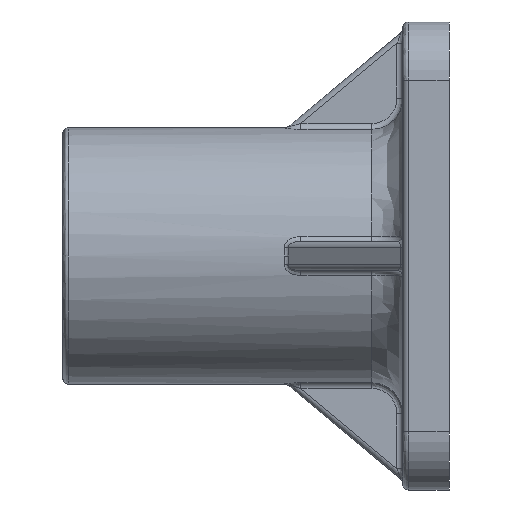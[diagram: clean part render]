
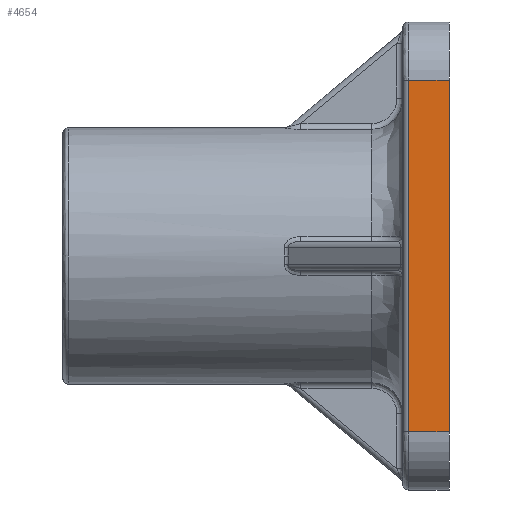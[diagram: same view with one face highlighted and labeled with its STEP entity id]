
A CAD part, left-side view. The second image highlights one B-rep face of the part: STEP entity #4654.
In plain terms, the highlighted planar face has unit normal (-1, 0, 0).
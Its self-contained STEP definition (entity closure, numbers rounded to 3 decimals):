
#58 = LINE ( 'NONE', #13408, #11465 ) ;
#60 = DIRECTION ( 'NONE',  ( 1., 0., 0. ) ) ;
#449 = DIRECTION ( 'NONE',  ( 0., 0., 1. ) ) ;
#1901 = EDGE_CURVE ( 'NONE', #9525, #6583, #12259, .T. ) ;
#2325 = VECTOR ( 'NONE', #4764, 1000. ) ;
#2365 = LINE ( 'NONE', #16846, #15731 ) ;
#2638 = ORIENTED_EDGE ( 'NONE', *, *, #16523, .F. ) ;
#3129 = CARTESIAN_POINT ( 'NONE',  ( -60.5, 0., -45.5 ) ) ;
#4088 = CARTESIAN_POINT ( 'NONE',  ( -60.5, 12., 60.5 ) ) ;
#4654 = ADVANCED_FACE ( 'NONE', ( #9446 ), #8063, .F. ) ;
#4764 = DIRECTION ( 'NONE',  ( 0., -1., 0. ) ) ;
#5279 = DIRECTION ( 'NONE',  ( 0., 1., 0. ) ) ;
#6374 = CARTESIAN_POINT ( 'NONE',  ( -60.5, 0., 45.5 ) ) ;
#6444 = VECTOR ( 'NONE', #449, 1000. ) ;
#6583 = VERTEX_POINT ( 'NONE', #6374 ) ;
#6840 = DIRECTION ( 'NONE',  ( 0., 0., 1. ) ) ;
#7289 = VERTEX_POINT ( 'NONE', #12463 ) ;
#7349 = EDGE_CURVE ( 'NONE', #9525, #7289, #2365, .T. ) ;
#7352 = LINE ( 'NONE', #16421, #2325 ) ;
#8063 = PLANE ( 'NONE',  #16032 ) ;
#8089 = ORIENTED_EDGE ( 'NONE', *, *, #7349, .F. ) ;
#8291 = VERTEX_POINT ( 'NONE', #10604 ) ;
#9446 = FACE_OUTER_BOUND ( 'NONE', #14256, .T. ) ;
#9525 = VERTEX_POINT ( 'NONE', #3129 ) ;
#10604 = CARTESIAN_POINT ( 'NONE',  ( -60.5, 10.5, 45.5 ) ) ;
#10881 = CARTESIAN_POINT ( 'NONE',  ( -60.5, 0., -60.5 ) ) ;
#11465 = VECTOR ( 'NONE', #6840, 1000. ) ;
#12259 = LINE ( 'NONE', #10881, #6444 ) ;
#12463 = CARTESIAN_POINT ( 'NONE',  ( -60.5, 10.5, -45.5 ) ) ;
#12858 = ORIENTED_EDGE ( 'NONE', *, *, #14652, .F. ) ;
#13408 = CARTESIAN_POINT ( 'NONE',  ( -60.5, 10.5, 60.5 ) ) ;
#14256 = EDGE_LOOP ( 'NONE', ( #2638, #8089, #15082, #12858 ) ) ;
#14439 = DIRECTION ( 'NONE',  ( 0., 0., -1. ) ) ;
#14652 = EDGE_CURVE ( 'NONE', #8291, #6583, #7352, .T. ) ;
#15082 = ORIENTED_EDGE ( 'NONE', *, *, #1901, .T. ) ;
#15731 = VECTOR ( 'NONE', #5279, 1000. ) ;
#16032 = AXIS2_PLACEMENT_3D ( 'NONE', #4088, #60, #14439 ) ;
#16421 = CARTESIAN_POINT ( 'NONE',  ( -60.5, 12., 45.5 ) ) ;
#16523 = EDGE_CURVE ( 'NONE', #7289, #8291, #58, .T. ) ;
#16846 = CARTESIAN_POINT ( 'NONE',  ( -60.5, 12., -45.5 ) ) ;
